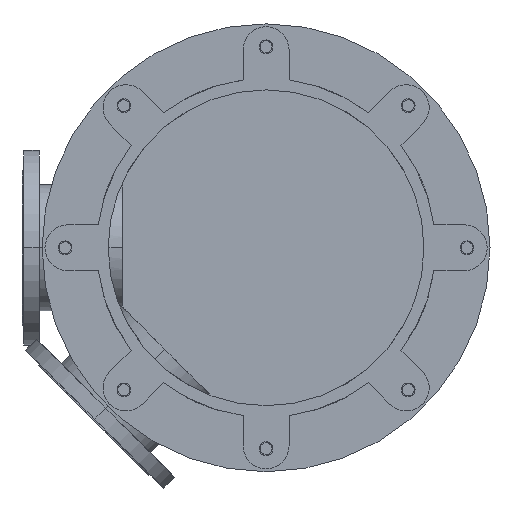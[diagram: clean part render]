
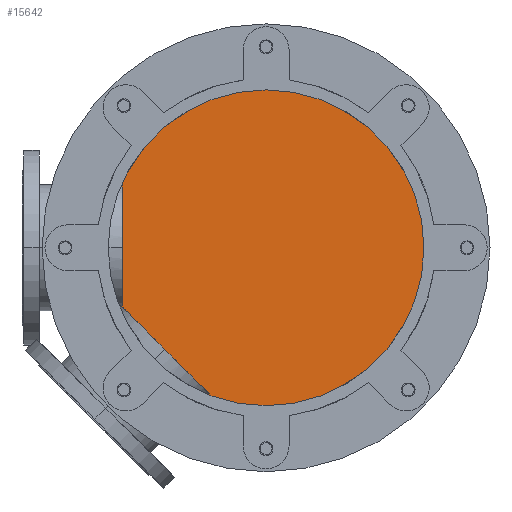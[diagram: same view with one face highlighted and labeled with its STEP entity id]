
A CAD part, front view. The second image highlights one B-rep face of the part: STEP entity #15642.
In plain terms, the highlighted planar face has unit normal (0, -1, 0).
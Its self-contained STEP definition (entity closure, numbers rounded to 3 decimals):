
#3946=CARTESIAN_POINT('',(0.,875.,0.));
#3947=DIRECTION('',(0.,-1.,0.));
#3948=DIRECTION('',(0.,0.,-1.));
#3949=AXIS2_PLACEMENT_3D('',#3946,#3947,#3948);
#4031=CARTESIAN_POINT('',(0.,875.,0.));
#4032=DIRECTION('',(0.,-1.,0.));
#4033=DIRECTION('',(0.,0.,1.));
#4034=AXIS2_PLACEMENT_3D('',#4031,#4032,#4033);
#9067=CARTESIAN_POINT('',(0.,875.,290.));
#9068=CARTESIAN_POINT('',(0.,875.,-290.));
#9069=VERTEX_POINT('',#9067);
#9070=VERTEX_POINT('',#9068);
#15633=CARTESIAN_POINT('',(0.,875.,0.));
#15634=DIRECTION('',(0.,1.,0.));
#15635=DIRECTION('',(0.,0.,-1.));
#15636=AXIS2_PLACEMENT_3D('',#15633,#15634,#15635);
#15637=PLANE('',#15636);
#15638=ORIENTED_EDGE('',*,*,#15613,.F.);
#15639=ORIENTED_EDGE('',*,*,#15518,.F.);
#15640=EDGE_LOOP('',(#15638,#15639));
#15641=FACE_OUTER_BOUND('',#15640,.F.);
#15642=ADVANCED_FACE('',(#15641),#15637,.F.);
#3950=CIRCLE('',#3949,290.);
#4035=CIRCLE('',#4034,290.);
#15518=EDGE_CURVE('',#9070,#9069,#3950,.T.);
#15613=EDGE_CURVE('',#9069,#9070,#4035,.T.);
